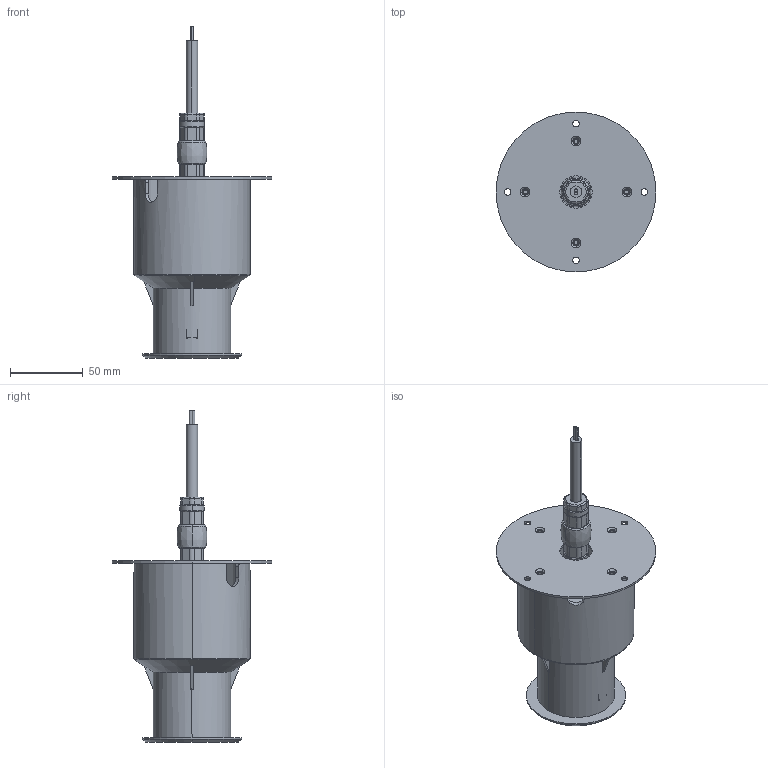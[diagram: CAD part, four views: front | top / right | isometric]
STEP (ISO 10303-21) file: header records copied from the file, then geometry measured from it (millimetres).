
FILE_DESCRIPTION((''),'2;1');
FILE_NAME('B4A0159F_ASM','2024-01-23T',('Administrator'),(''),'CREO PARAMETRIC BY PTC INC, 2015200','CREO PARAMETRIC BY PTC INC, 2015200','');
FILE_SCHEMA(('CONFIG_CONTROL_DESIGN'));
Length unit declared in the file: millimetre
Products named in the file (25): 4A-82_12_27; HOUGAI-0_25; 4A-10_12_24; LUOMU_26; 0-RING_25; BOLIDIAN_23; FANGSHUIQUAN_23; 2C-2V_28_22; BOLI-0_23; ASM0003_ASM_21_ASM; 2W-X1_19; MUZUHE_13; TANHUANG_11; 4A_____ASM_5_ASM; M3-6; PCB-002; MSBR-4; TOUJING; 4A_ASM; M2; 4A-NEW-SLEEVE-02; 4A-AG; 4A-G1_ASM; IP67; B4A0159F_ASM
Assembly tree (26 placements, depth 3):
  B4A0159F_ASM
    4A-82_12_27
    HOUGAI-0_25
    4A-10_12_24
    LUOMU_26
    0-RING_25
    BOLIDIAN_23
    FANGSHUIQUAN_23
    ASM0003_ASM_21_ASM
      2C-2V_28_22
      BOLI-0_23
    2W-X1_19
    MUZUHE_13
    TANHUANG_11
    4A_____ASM_5_ASM
    M3-6  x2
    PCB-002
    4A_ASM
      MSBR-4
      TOUJING
    M2  x2
    4A-G1_ASM
      4A-NEW-SLEEVE-02
      4A-AG
    IP67
Bounding box: 110 x 110 x 228.3 mm (x, y, z)
Volume: 198905.5 mm3; surface area: 147918 mm2
Topology: 22 solids, 22 shells, 980 faces, 2434 edges, 1534 vertices
Faces by surface type: plane 355, cylinder 347, cone 147, bspline 85, torus 42, sphere 4
Entity records: 33593 total; most frequent: CARTESIAN_POINT 12595, DIRECTION 4351, ORIENTED_EDGE 4328, EDGE_CURVE 2164, AXIS2_PLACEMENT_3D 1753, VERTEX_POINT 1378, EDGE_LOOP 966, CIRCLE 922
